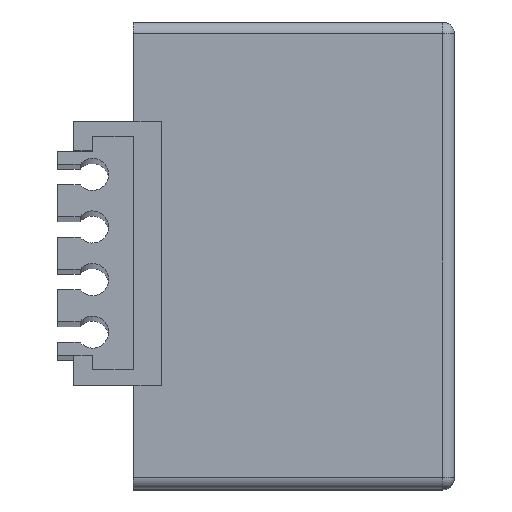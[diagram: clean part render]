
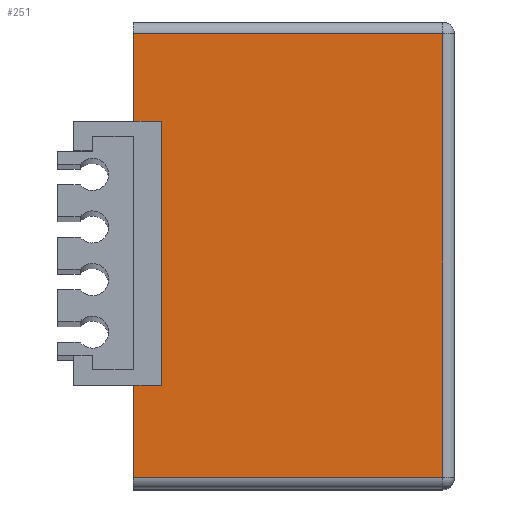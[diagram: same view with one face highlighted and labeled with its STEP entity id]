
A CAD part, top view. The second image highlights one B-rep face of the part: STEP entity #251.
In plain terms, the highlighted planar face has unit normal (0, 0, 1).
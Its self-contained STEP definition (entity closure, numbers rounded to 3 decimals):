
#69 = PLANE ( 'NONE',  #1923 ) ;
#105 = CARTESIAN_POINT ( 'NONE',  ( 95., 80., 63. ) ) ;
#106 = DIRECTION ( 'NONE',  ( 0., 0., -1. ) ) ;
#107 = DIRECTION ( 'NONE',  ( 0., 1., 0. ) ) ;
#251 = ADVANCED_FACE ( 'NONE', ( #2312 ), #69, .F. ) ;
#422 = VECTOR ( 'NONE', #1397, 1000. ) ;
#465 = LINE ( 'NONE', #1403, #422 ) ;
#800 = VECTOR ( 'NONE', #943, 1000. ) ;
#824 = VECTOR ( 'NONE', #982, 1000. ) ;
#826 = LINE ( 'NONE', #987, #824 ) ;
#834 = LINE ( 'NONE', #998, #845 ) ;
#836 = LINE ( 'NONE', #981, #868 ) ;
#840 = LINE ( 'NONE', #957, #800 ) ;
#845 = VECTOR ( 'NONE', #989, 1000. ) ;
#853 = VECTOR ( 'NONE', #1553, 1000. ) ;
#855 = LINE ( 'NONE', #1558, #853 ) ;
#868 = VECTOR ( 'NONE', #972, 1000. ) ;
#943 = DIRECTION ( 'NONE',  ( 1., 0., 0. ) ) ;
#957 = CARTESIAN_POINT ( 'NONE',  ( 95., -76., 63. ) ) ;
#972 = DIRECTION ( 'NONE',  ( 0., 1., 0. ) ) ;
#981 = CARTESIAN_POINT ( 'NONE',  ( 91., 76., 63. ) ) ;
#982 = DIRECTION ( 'NONE',  ( -1., 0., 0. ) ) ;
#987 = CARTESIAN_POINT ( 'NONE',  ( 95., 76., 63. ) ) ;
#989 = DIRECTION ( 'NONE',  ( 0., -1., 0. ) ) ;
#998 = CARTESIAN_POINT ( 'NONE',  ( -15., 80., 63. ) ) ;
#1397 = DIRECTION ( 'NONE',  ( 0., -1., 0. ) ) ;
#1403 = CARTESIAN_POINT ( 'NONE',  ( -15., 80., 63. ) ) ;
#1447 = CARTESIAN_POINT ( 'NONE',  ( 91., -76., 63. ) ) ;
#1451 = CARTESIAN_POINT ( 'NONE',  ( -15., -76., 63. ) ) ;
#1455 = CARTESIAN_POINT ( 'NONE',  ( 91., 76., 63. ) ) ;
#1463 = CARTESIAN_POINT ( 'NONE',  ( -15., 76., 63. ) ) ;
#1471 = CARTESIAN_POINT ( 'NONE',  ( -15., -40., 63. ) ) ;
#1477 = CARTESIAN_POINT ( 'NONE',  ( -15., 40., 63. ) ) ;
#1553 = DIRECTION ( 'NONE',  ( 0., -1., 0. ) ) ;
#1558 = CARTESIAN_POINT ( 'NONE',  ( -15., 80., 63. ) ) ;
#1923 = AXIS2_PLACEMENT_3D ( 'NONE', #105, #106, #107 ) ;
#2138 = EDGE_CURVE ( 'NONE', #2671, #2673, #465, .T. ) ;
#2187 = EDGE_CURVE ( 'NONE', #2730, #2671, #834, .T. ) ;
#2188 = EDGE_CURVE ( 'NONE', #2729, #2730, #826, .T. ) ;
#2189 = EDGE_CURVE ( 'NONE', #2738, #2729, #836, .T. ) ;
#2190 = EDGE_CURVE ( 'NONE', #2736, #2738, #840, .T. ) ;
#2195 = EDGE_CURVE ( 'NONE', #2673, #2736, #855, .T. ) ;
#2283 = ORIENTED_EDGE ( 'NONE', *, *, #2190, .T. ) ;
#2312 = FACE_OUTER_BOUND ( 'NONE', #2466, .T. ) ;
#2441 = ORIENTED_EDGE ( 'NONE', *, *, #2189, .T. ) ;
#2466 = EDGE_LOOP ( 'NONE', ( #2283, #2441, #2760, #2602, #2875, #2873 ) ) ;
#2602 = ORIENTED_EDGE ( 'NONE', *, *, #2187, .T. ) ;
#2671 = VERTEX_POINT ( 'NONE', #1477 ) ;
#2673 = VERTEX_POINT ( 'NONE', #1471 ) ;
#2729 = VERTEX_POINT ( 'NONE', #1455 ) ;
#2730 = VERTEX_POINT ( 'NONE', #1463 ) ;
#2736 = VERTEX_POINT ( 'NONE', #1451 ) ;
#2738 = VERTEX_POINT ( 'NONE', #1447 ) ;
#2760 = ORIENTED_EDGE ( 'NONE', *, *, #2188, .T. ) ;
#2873 = ORIENTED_EDGE ( 'NONE', *, *, #2195, .T. ) ;
#2875 = ORIENTED_EDGE ( 'NONE', *, *, #2138, .T. ) ;
